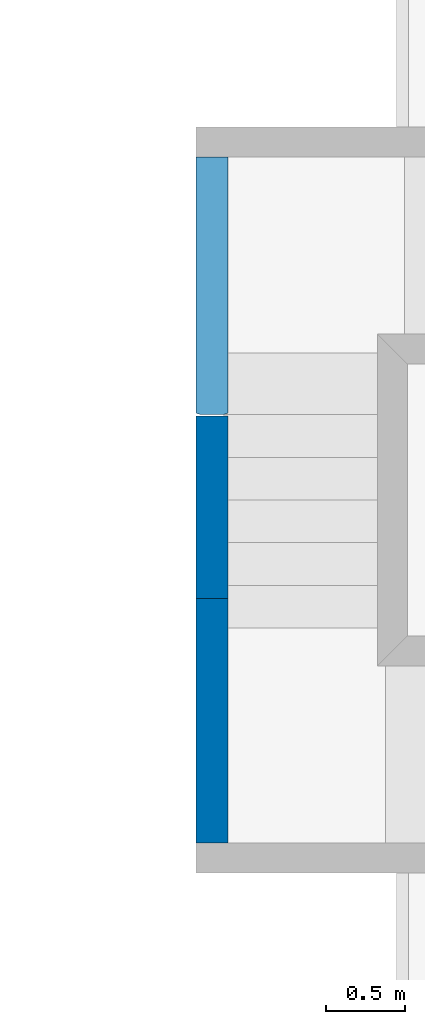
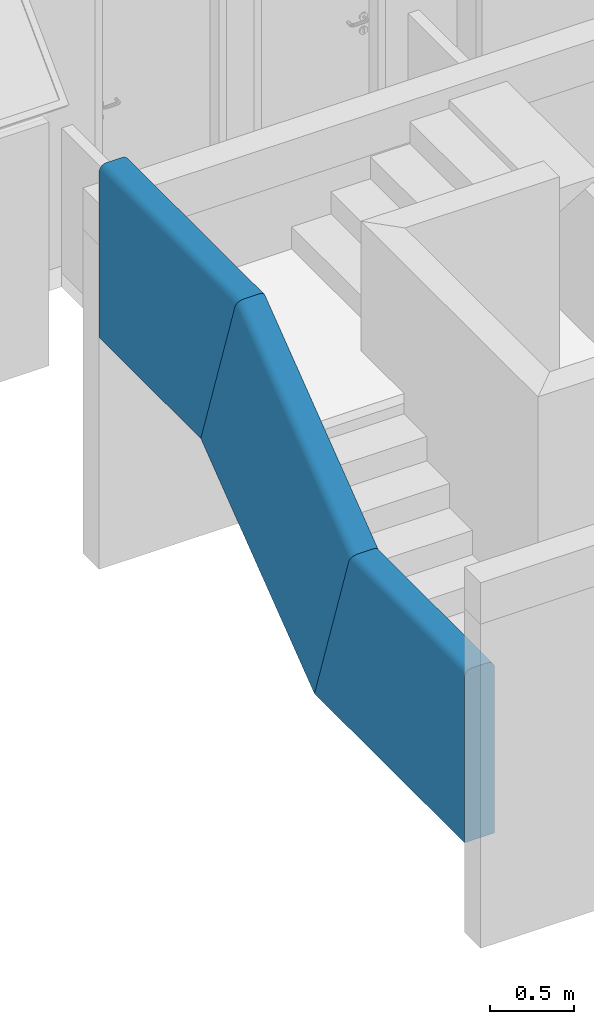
# One storey, part 9 of 22: 3 walls, 1 element without a shape of its own.
"""IFC2X3 building model written with IfcOpenShell, lengths in millimetres."""

from ifc_helpers import new_model, si_unit, direction, frame, origin_with_axes, place, context, subcontext, project, spatial, faceted_brep, source, transform, mapped, material, type_object, type_shapes, element, aggregate, save


model = new_model("IFC2X3")

# Units and contexts
model_context = context("Model", 3, precision=1e-05, world=origin_with_axes(), true_north=direction((0.0, 1.0)))
body_context = subcontext(model_context, "Body", "Model", "MODEL_VIEW")
ifc_project = project(units=[si_unit("LENGTHUNIT", "METRE", prefix="MILLI"), si_unit("AREAUNIT", "SQUARE_METRE"), si_unit("VOLUMEUNIT", "CUBIC_METRE"), si_unit("PLANEANGLEUNIT", "RADIAN"), si_unit("TIMEUNIT", "SECOND"), si_unit("MASSUNIT", "GRAM")], contexts=[model_context])

# Site, building, storey
site_placement = place(None, origin_with_axes())
site = spatial("IfcSite", under=ifc_project, at=site_placement, Name="Site", CompositionType="ELEMENT")
building_placement = place(site_placement, origin_with_axes())
building = spatial("IfcBuilding", under=site, at=building_placement, Name="Construção", CompositionType="COMPLEX")
storey_placement = place(building_placement, frame((0.0, 0.0, 2650.0), z_axis=(0.0, 0.0, 1.0), x_axis=(1.0, 0.0, 0.0)))
storey = spatial("IfcBuildingStorey", under=building, at=storey_placement, Name="Segundo Pavimento", CompositionType="COMPLEX", Elevation=2650.0)

# Railing, walls
railing_placement = place(storey_placement, frame((0.0, 0.0, -2650.0), z_axis=(0.0, 0.0, 1.0), x_axis=(1.0, 0.0, 0.0)))
railing = element("IfcRailing", 1, at=railing_placement, inside=storey, Name="CIRC2-GC-002", PredefinedType="NOTDEFINED")
ifc_material = material(Name="Concreto")
wall_type_1 = type_object("IfcWallType", Name="GC - Barra Superior - 001", PredefinedType="NOTDEFINED")
shared_shape_1 = source(origin_with_axes(), body_context, "Body", "Brep", [
    faceted_brep([(163.540315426, 0.0, 1249.30325927), (171.626466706, 0.0, 1247.23245499), (171.626466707, 1360.93562106, 1247.23245499), (163.540315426, 1360.23554641, 1249.30325927), (179.255441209, 0.0, 1243.8452997), (179.25544121, 1362.08071312, 1243.8452997), (186.214622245, 0.0, 1239.23619217), (186.214622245, 1363.6389093, 1239.23619217), (192.310060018, 0.0, 1233.53358652), (192.310060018, 1365.56678325, 1233.53358652), (197.371876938, 0.0, 1226.89641224), (197.371876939, 1367.81060584, 1226.89641224), (201.259002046, 0.0, 1219.50964493), (201.259002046, 1370.30784257, 1219.50964493), (203.863102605, 0.0, 1211.57915105), (203.863102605, 1372.98889638, 1211.57915105), (205.111603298, 0.0, 1203.32595053), (205.111603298, 1375.77904728, 1203.32595053), (205.111603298, 0.0, 0.0), (205.111603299, 1782.58619778, 0.0), (102.555801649, 0.0, 0.0), (102.555801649, 1782.58619778, 0.0), (102.555801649, 0.0, 1250.0), (102.555801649, 1360.0, 1250.0), (155.222345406, 1360.0, 1250.0), (155.222345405, 0.0, 1250.0)], [[[0, 1, 2, 3]], [[1, 4, 5, 2]], [[4, 6, 7, 5]], [[6, 8, 9, 7]], [[8, 10, 11, 9]], [[10, 12, 13, 11]], [[12, 14, 15, 13]], [[14, 16, 17, 15]], [[16, 18, 19, 17]], [[18, 20, 21, 19]], [[20, 22, 23, 21]], [[23, 24, 3, 2, 5, 7, 9, 11, 13, 15, 17, 19, 21]], [[25, 0, 3, 24]], [[22, 20, 18, 16, 14, 12, 10, 8, 6, 4, 1, 0, 25]], [[22, 25, 24, 23]]]),
    faceted_brep([(0.0, 0.0, 1203.32595053), (1.24850069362, 0.0, 1211.57915105), (1.24850069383, 1372.98889638, 1211.57915105), (2.06578442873e-10, 1375.77904728, 1203.32595053), (3.85260125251, 0.0, 1219.50964493), (3.85260125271, 1370.30784257, 1219.50964493), (7.73972635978, 0.0, 1226.89641224), (7.73972635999, 1367.81060584, 1226.89641224), (12.8015432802, 0.0, 1233.53358652), (12.8015432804, 1365.56678325, 1233.53358652), (18.8969810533, 0.0, 1239.23619217), (18.8969810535, 1363.6389093, 1239.23619217), (25.8561620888, 0.0, 1243.8452997), (25.856162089, 1362.08071312, 1243.8452997), (33.485136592, 0.0, 1247.23245499), (33.4851365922, 1360.93562106, 1247.23245499), (41.5712878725, 0.0, 1249.30325927), (41.5712878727, 1360.23554641, 1249.30325927), (49.8892578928, 0.0, 1250.0), (49.889257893, 1360.0, 1250.0), (102.555801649, 0.0, 1250.0), (102.555801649, 1360.0, 1250.0), (102.555801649, 0.0, 0.0), (102.555801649, 1782.58619778, 0.0), (2.67611799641e-10, 1782.58619778, 0.0), (0.0, 0.0, 0.0)], [[[0, 1, 2, 3]], [[1, 4, 5, 2]], [[4, 6, 7, 5]], [[6, 8, 9, 7]], [[8, 10, 11, 9]], [[10, 12, 13, 11]], [[12, 14, 15, 13]], [[14, 16, 17, 15]], [[16, 18, 19, 17]], [[18, 20, 21, 19]], [[20, 22, 23, 21]], [[23, 24, 3, 2, 5, 7, 9, 11, 13, 15, 17, 19, 21]], [[25, 0, 3, 24]], [[22, 20, 18, 16, 14, 12, 10, 8, 6, 4, 1, 0, 25]], [[22, 25, 24, 23]]]),
])
type_shapes(wall_type_1, [shared_shape_1])
wall_1_placement = place(railing_placement, frame((4890.0, 10910.0, 3150.0), z_axis=(0.0, 0.0, 1.0), x_axis=(1.0, 0.0, 0.0)))
wall_1 = element("IfcWall", 2, at=wall_1_placement, type_object=wall_type_1, material=ifc_material, Name="CIRC2-GC - Barra Superior - 001", context=body_context, shape_type="MappedRepresentation", body=[
    mapped(shared_shape_1, transform((0.0, 0.0, 0.0))),
])
wall_type_2 = type_object("IfcWallType", Name="GC - Barra Superior - 001_1", PredefinedType="NOTDEFINED")
shared_shape_2 = source(origin_with_axes(), body_context, "Body", "Brep", [
    faceted_brep([(205.111603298, 422.586197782, 0.0), (102.555801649, 422.586197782, 0.0), (102.555801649, 1772.58619778, 1030.57075871), (205.111603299, 1772.58619778, 1030.57075871), (205.111603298, 15.7790472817, 1203.32595053), (205.111603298, 1365.77904728, 2233.89670923), (203.863102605, 12.9888963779, 1211.57915105), (203.863102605, 1362.98889638, 2242.14990976), (201.259002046, 10.3078425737, 1219.50964493), (201.259002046, 1360.30784257, 2250.08040364), (197.371876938, 7.81060584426, 1226.89641224), (197.371876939, 1357.81060584, 2257.46717095), (192.310060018, 5.56678325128, 1233.53358652), (192.310060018, 1355.56678325, 2264.10434523), (186.214622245, 3.6389092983, 1239.23619217), (186.214622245, 1353.6389093, 2269.80695088), (179.255441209, 2.08071311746, 1243.8452997), (179.25544121, 1352.08071312, 2274.41605841), (171.626466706, 0.935621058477, 1247.23245499), (171.626466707, 1350.93562106, 2277.8032137), (163.540315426, 0.235546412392, 1249.30325927), (163.540315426, 1350.23554641, 2279.87401798), (102.555801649, 0.0, 1250.0), (102.555801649, 1350.0, 2280.57075871), (155.222345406, 1350.0, 2280.57075871), (155.222345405, 0.0, 1250.0)], [[[0, 1, 2, 3]], [[4, 0, 3, 5]], [[6, 4, 5, 7]], [[8, 6, 7, 9]], [[10, 8, 9, 11]], [[12, 10, 11, 13]], [[14, 12, 13, 15]], [[16, 14, 15, 17]], [[18, 16, 17, 19]], [[20, 18, 19, 21]], [[1, 22, 23, 2]], [[23, 24, 21, 19, 17, 15, 13, 11, 9, 7, 5, 3, 2]], [[25, 20, 21, 24]], [[22, 1, 0, 4, 6, 8, 10, 12, 14, 16, 18, 20, 25]], [[22, 25, 24, 23]]]),
    faceted_brep([(0.0, 15.7790472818, 1203.32595053), (1.24850069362, 12.9888963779, 1211.57915105), (1.24850069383, 1362.98889638, 2242.14990976), (2.04803070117e-10, 1365.77904728, 2233.89670923), (3.85260125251, 10.3078425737, 1219.50964493), (3.85260125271, 1360.30784257, 2250.08040364), (7.73972635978, 7.81060584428, 1226.89641224), (7.73972635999, 1357.81060584, 2257.46717095), (12.8015432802, 5.5667832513, 1233.53358652), (12.8015432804, 1355.56678325, 2264.10434523), (18.8969810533, 3.63890929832, 1239.23619217), (18.8969810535, 1353.6389093, 2269.80695088), (25.8561620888, 2.08071311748, 1243.8452997), (25.856162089, 1352.08071312, 2274.41605841), (33.485136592, 0.935621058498, 1247.23245499), (33.4851365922, 1350.93562106, 2277.8032137), (41.5712878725, 0.23554641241, 1249.30325927), (41.5712878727, 1350.23554641, 2279.87401798), (49.8892578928, 0.0, 1250.0), (49.889257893, 1350.0, 2280.57075871), (102.555801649, 0.0, 1250.0), (102.555801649, 1350.0, 2280.57075871), (102.555801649, 422.586197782, 0.0), (102.555801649, 1772.58619778, 1030.57075871), (2.65861798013e-10, 1772.58619778, 1030.57075871), (0.0, 422.586197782, 0.0)], [[[0, 1, 2, 3]], [[1, 4, 5, 2]], [[4, 6, 7, 5]], [[6, 8, 9, 7]], [[8, 10, 11, 9]], [[10, 12, 13, 11]], [[12, 14, 15, 13]], [[14, 16, 17, 15]], [[16, 18, 19, 17]], [[18, 20, 21, 19]], [[20, 22, 23, 21]], [[23, 24, 3, 2, 5, 7, 9, 11, 13, 15, 17, 19, 21]], [[25, 0, 3, 24]], [[22, 20, 18, 16, 14, 12, 10, 8, 6, 4, 1, 0, 25]], [[22, 25, 24, 23]]]),
])
type_shapes(wall_type_2, [shared_shape_2])
wall_2_placement = place(railing_placement, frame((4890.000000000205, 12270.0, 3150.0), z_axis=(0.0, 0.0, 1.0), x_axis=(1.0, 0.0, 0.0)))
wall_2 = element("IfcWall", 3, at=wall_2_placement, type_object=wall_type_2, material=ifc_material, Name="CIRC2-GC - Barra Superior - 001", context=body_context, shape_type="MappedRepresentation", body=[
    mapped(shared_shape_2, transform((0.0, 0.0, 0.0))),
])
wall_type_3 = type_object("IfcWallType", Name="GC - Barra Superior - 001_3", PredefinedType="NOTDEFINED")
shared_shape_3 = source(origin_with_axes(), body_context, "Body", "Brep", [
    faceted_brep([(179.255441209, 2.08071311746, 1243.8452997), (186.214622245, 3.6389092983, 1239.23619217), (186.214622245, 1630.0, 1239.23619217), (179.25544121, 1630.0, 1243.8452997), (171.626466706, 0.935621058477, 1247.23245499), (171.626466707, 1630.0, 1247.23245499), (163.540315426, 0.235546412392, 1249.30325927), (163.540315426, 1630.0, 1249.30325927), (192.310060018, 5.56678325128, 1233.53358652), (192.310060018, 1630.0, 1233.53358652), (197.371876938, 7.81060584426, 1226.89641224), (197.371876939, 1630.0, 1226.89641224), (201.259002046, 10.3078425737, 1219.50964493), (201.259002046, 1630.0, 1219.50964493), (203.863102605, 12.9888963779, 1211.57915105), (203.863102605, 1630.0, 1211.57915105), (205.111603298, 15.7790472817, 1203.32595053), (205.111603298, 1630.0, 1203.32595053), (205.111603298, 422.586197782, 0.0), (205.111603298, 1630.0, 0.0), (102.555801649, 422.586197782, 0.0), (102.555801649, 1630.0, 0.0), (102.555801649, 0.0, 1250.0), (102.555801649, 1630.0, 1250.0), (155.222345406, 1630.0, 1250.0), (155.222345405, 0.0, 1250.0)], [[[0, 1, 2, 3]], [[4, 0, 3, 5]], [[6, 4, 5, 7]], [[1, 8, 9, 2]], [[8, 10, 11, 9]], [[10, 12, 13, 11]], [[12, 14, 15, 13]], [[14, 16, 17, 15]], [[16, 18, 19, 17]], [[18, 20, 21, 19]], [[20, 22, 23, 21]], [[23, 24, 7, 5, 3, 2, 9, 11, 13, 15, 17, 19, 21]], [[25, 6, 7, 24]], [[22, 20, 18, 16, 14, 12, 10, 8, 1, 0, 4, 6, 25]], [[22, 25, 24, 23]]]),
    faceted_brep([(3.85260125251, 10.3078425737, 1219.50964493), (7.73972635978, 7.81060584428, 1226.89641224), (7.73972636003, 1630.0, 1226.89641224), (3.85260125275, 1630.0, 1219.50964493), (12.8015432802, 5.5667832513, 1233.53358652), (12.8015432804, 1630.0, 1233.53358652), (18.8969810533, 3.63890929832, 1239.23619217), (18.8969810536, 1630.0, 1239.23619217), (25.8561620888, 2.08071311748, 1243.8452997), (25.8561620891, 1630.0, 1243.8452997), (33.485136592, 0.935621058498, 1247.23245499), (33.4851365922, 1630.0, 1247.23245499), (41.5712878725, 0.23554641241, 1249.30325927), (41.5712878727, 1630.0, 1249.30325927), (49.8892578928, 0.0, 1250.0), (49.8892578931, 1630.0, 1250.0), (1.24850069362, 12.9888963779, 1211.57915105), (1.24850069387, 1630.0, 1211.57915105), (0.0, 15.7790472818, 1203.32595053), (2.45067854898e-10, 1630.0, 1203.32595053), (102.555801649, 0.0, 1250.0), (102.555801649, 1630.0, 1250.0), (102.555801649, 422.586197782, 0.0), (102.555801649, 1630.0, 0.0), (2.45081732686e-10, 1630.0, 0.0), (0.0, 422.586197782, 0.0)], [[[0, 1, 2, 3]], [[1, 4, 5, 2]], [[4, 6, 7, 5]], [[6, 8, 9, 7]], [[8, 10, 11, 9]], [[10, 12, 13, 11]], [[12, 14, 15, 13]], [[16, 0, 3, 17]], [[18, 16, 17, 19]], [[14, 20, 21, 15]], [[20, 22, 23, 21]], [[23, 24, 19, 17, 3, 2, 5, 7, 9, 11, 13, 15, 21]], [[25, 18, 19, 24]], [[22, 20, 14, 12, 10, 8, 6, 4, 1, 0, 16, 18, 25]], [[22, 25, 24, 23]]]),
])
type_shapes(wall_type_3, [shared_shape_3])
wall_3_placement = place(railing_placement, frame((4890.000000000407, 13620.0, 4180.5707587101), z_axis=(0.0, 0.0, 1.0), x_axis=(1.0, 0.0, 0.0)))
wall_3 = element("IfcWall", 4, at=wall_3_placement, type_object=wall_type_3, material=ifc_material, Name="CIRC2-GC - Barra Superior - 001", context=body_context, shape_type="MappedRepresentation", body=[
    mapped(shared_shape_3, transform((0.0, 0.0, 0.0))),
])
aggregate(railing, [wall_1, wall_2, wall_3])

save(model, "model.ifc")
